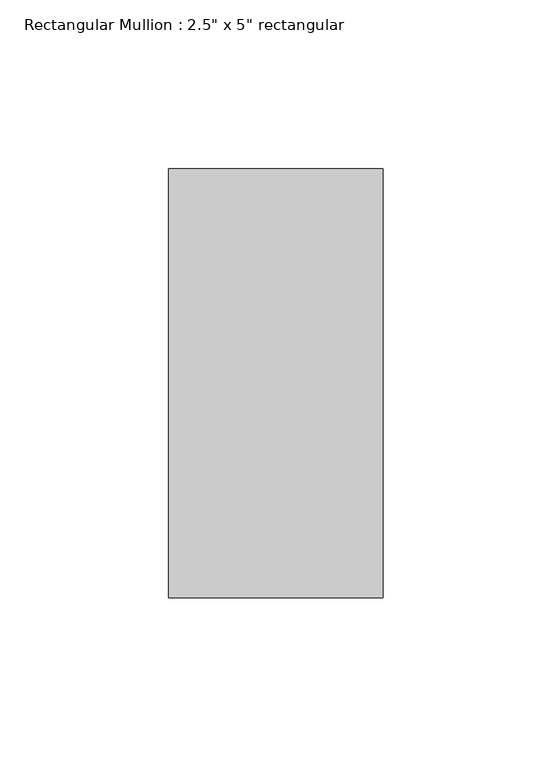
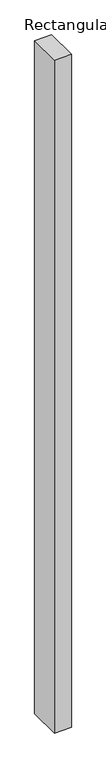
"""IFC4 building model written with IfcOpenShell, lengths in millimetres: member geometry."""

from ifc_helpers import new_model, si_unit, frame, origin, place, context, project, spatial, polyline, outline, extrude, source, transform, mapped, element, save


def member_b4c2ac5f(model_context):
    return source(origin(), model_context, "Body", "SweptSolid", [
        extrude(outline(polyline([(31.75, 63.5), (31.75, -63.5), (-31.75, -63.5), (-31.75, 63.5), (31.75, 63.5)])), frame((0.0, 0.0, -2654.3), z_axis=(0.0, 0.0, 1.0), x_axis=(1.0, 0.0, 0.0)), (0.0, 0.0, 1.0), 2654.3),
    ])


if __name__ == "__main__":
    model = new_model("IFC4")
    model_context = context("Model", 3, world=origin())
    ifc_project = project(units=[si_unit("LENGTHUNIT", "METRE", prefix="MILLI")], contexts=[model_context])
    site = spatial("IfcSite", under=ifc_project)
    building = spatial("IfcBuilding", under=site)
    placement = place(None, origin())
    member_shape = member_b4c2ac5f(model_context)
    element("IfcMember", 1, ObjectType="Rectangular Mullion : 2.5\" x 5\" rectangular", at=placement, inside=building, context=model_context, shape_type="MappedRepresentation", body=[
        mapped(member_shape, transform((0.0, 0.0, 0.0), x_axis=(1.0, 0.0, 0.0), y_axis=(0.0, 1.0, 0.0), z_axis=(0.0, 0.0, 1.0))),
    ])
    save(model, "model.ifc")
